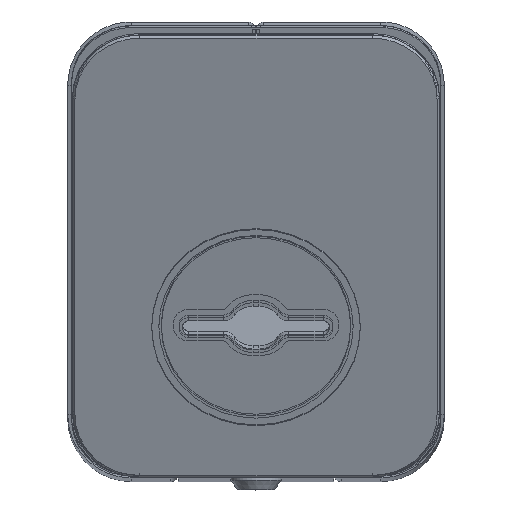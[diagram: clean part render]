
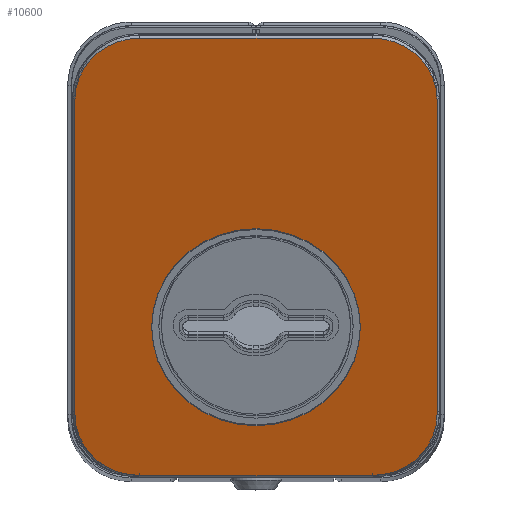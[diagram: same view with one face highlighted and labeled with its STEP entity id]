
A CAD part, top view. The second image highlights one B-rep face of the part: STEP entity #10600.
In plain terms, the highlighted planar face has unit normal (0, -0.342, 0.94) as drawn and (0, 1, 0) by its records, which use the part's own axes.
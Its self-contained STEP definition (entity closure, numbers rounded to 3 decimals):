
#875=LINE('',#16507,#1909);
#876=LINE('',#16511,#1910);
#877=LINE('',#16515,#1911);
#878=LINE('',#16519,#1912);
#1909=VECTOR('',#13463,1000.);
#1910=VECTOR('',#13466,1000.);
#1911=VECTOR('',#13469,1000.);
#1912=VECTOR('',#13472,1000.);
#3533=ORIENTED_EDGE('',*,*,#6111,.F.);
#3534=ORIENTED_EDGE('',*,*,#6112,.T.);
#3535=ORIENTED_EDGE('',*,*,#6113,.T.);
#3536=ORIENTED_EDGE('',*,*,#6114,.T.);
#3537=ORIENTED_EDGE('',*,*,#6115,.T.);
#3538=ORIENTED_EDGE('',*,*,#6116,.T.);
#3539=ORIENTED_EDGE('',*,*,#6117,.T.);
#3540=ORIENTED_EDGE('',*,*,#6118,.T.);
#3541=ORIENTED_EDGE('',*,*,#6119,.T.);
#6111=EDGE_CURVE('',#7488,#7488,#8301,.F.);
#6112=EDGE_CURVE('',#7489,#7490,#8302,.F.);
#6113=EDGE_CURVE('',#7490,#7491,#875,.T.);
#6114=EDGE_CURVE('',#7491,#7492,#8303,.F.);
#6115=EDGE_CURVE('',#7492,#7493,#876,.T.);
#6116=EDGE_CURVE('',#7493,#7494,#8304,.F.);
#6117=EDGE_CURVE('',#7494,#7495,#877,.T.);
#6118=EDGE_CURVE('',#7495,#7496,#8305,.F.);
#6119=EDGE_CURVE('',#7496,#7489,#878,.T.);
#7488=VERTEX_POINT('',#16503);
#7489=VERTEX_POINT('',#16505);
#7490=VERTEX_POINT('',#16506);
#7491=VERTEX_POINT('',#16508);
#7492=VERTEX_POINT('',#16510);
#7493=VERTEX_POINT('',#16512);
#7494=VERTEX_POINT('',#16514);
#7495=VERTEX_POINT('',#16516);
#7496=VERTEX_POINT('',#16518);
#8301=CIRCLE('',#11842,40.5);
#8302=CIRCLE('',#11843,27.);
#8303=CIRCLE('',#11844,27.);
#8304=CIRCLE('',#11845,27.);
#8305=CIRCLE('',#11846,27.);
#8850=EDGE_LOOP('',(#3533));
#8851=EDGE_LOOP('',(#3534,#3535,#3536,#3537,#3538,#3539,#3540,#3541));
#9608=FACE_BOUND('',#8850,.T.);
#9609=FACE_BOUND('',#8851,.T.);
#10190=PLANE('',#11841);
#10600=ADVANCED_FACE('',(#9608,#9609),#10190,.F.);
#11841=AXIS2_PLACEMENT_3D('',#16501,#13457,#13458);
#11842=AXIS2_PLACEMENT_3D('',#16502,#13459,#13460);
#11843=AXIS2_PLACEMENT_3D('',#16504,#13461,#13462);
#11844=AXIS2_PLACEMENT_3D('',#16509,#13464,#13465);
#11845=AXIS2_PLACEMENT_3D('',#16513,#13467,#13468);
#11846=AXIS2_PLACEMENT_3D('',#16517,#13470,#13471);
#13457=DIRECTION('',(0.,-1.,0.));
#13458=DIRECTION('',(0.,0.,-1.));
#13459=DIRECTION('',(0.,-1.,0.));
#13460=DIRECTION('',(0.,0.,-1.));
#13461=DIRECTION('',(0.,-1.,0.));
#13462=DIRECTION('',(0.,0.,-1.));
#13463=DIRECTION('',(0.,0.,1.));
#13464=DIRECTION('',(0.,-1.,0.));
#13465=DIRECTION('',(0.,0.,-1.));
#13466=DIRECTION('',(1.,0.,0.));
#13467=DIRECTION('',(0.,-1.,0.));
#13468=DIRECTION('',(0.,0.,-1.));
#13469=DIRECTION('',(0.,0.,-1.));
#13470=DIRECTION('',(0.,-1.,0.));
#13471=DIRECTION('',(0.,0.,-1.));
#13472=DIRECTION('',(-1.,0.,0.));
#16501=CARTESIAN_POINT('',(0.,4.,0.));
#16502=CARTESIAN_POINT('',(0.,4.,31.));
#16503=CARTESIAN_POINT('',(0.,4.,-9.5));
#16504=CARTESIAN_POINT('',(-48.5,4.,-70.));
#16505=CARTESIAN_POINT('',(-48.5,4.,-97.));
#16506=CARTESIAN_POINT('',(-75.5,4.,-70.));
#16507=CARTESIAN_POINT('',(-75.5,4.,70.));
#16508=CARTESIAN_POINT('',(-75.5,4.,70.));
#16509=CARTESIAN_POINT('',(-48.5,4.,70.));
#16510=CARTESIAN_POINT('',(-48.5,4.,97.));
#16511=CARTESIAN_POINT('',(48.5,4.,97.));
#16512=CARTESIAN_POINT('',(48.5,4.,97.));
#16513=CARTESIAN_POINT('',(48.5,4.,70.));
#16514=CARTESIAN_POINT('',(75.5,4.,70.));
#16515=CARTESIAN_POINT('',(75.5,4.,-70.));
#16516=CARTESIAN_POINT('',(75.5,4.,-70.));
#16517=CARTESIAN_POINT('',(48.5,4.,-70.));
#16518=CARTESIAN_POINT('',(48.5,4.,-97.));
#16519=CARTESIAN_POINT('',(-48.5,4.,-97.));
